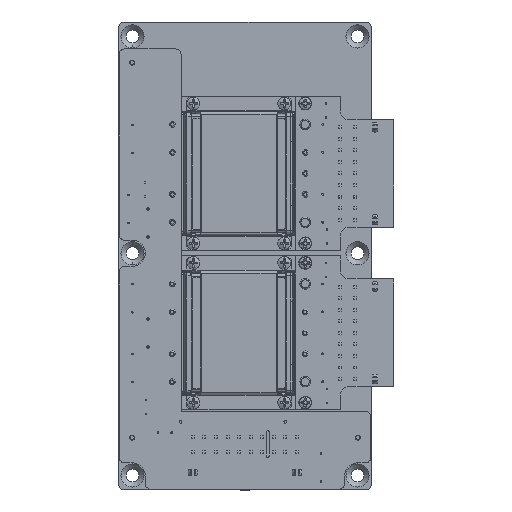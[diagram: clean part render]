
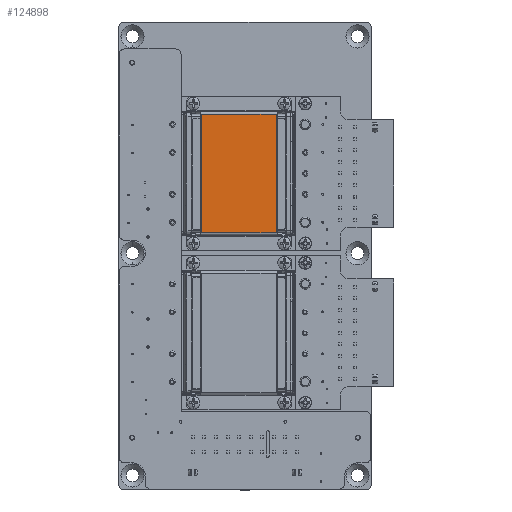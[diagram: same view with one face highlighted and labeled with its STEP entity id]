
A CAD part, top view. The second image highlights one B-rep face of the part: STEP entity #124898.
In plain terms, the highlighted planar face has unit normal (0, 0, 1).
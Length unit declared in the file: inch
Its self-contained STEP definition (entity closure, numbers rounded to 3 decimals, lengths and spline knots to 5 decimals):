
#4781 = LINE ( 'NONE', #176346, #103528 ) ;
#4787 = LINE ( 'NONE', #176350, #103531 ) ;
#4798 = LINE ( 'NONE', #176358, #103543 ) ;
#4803 = LINE ( 'NONE', #176362, #103548 ) ;
#5882 = PLANE ( 'NONE',  #29451 ) ;
#5887 = CARTESIAN_POINT ( 'NONE',  ( -2.40424, 0.40185, 0.71841 ) ) ;
#5892 = DIRECTION ( 'NONE',  ( 0., 0., 1. ) ) ;
#5897 = DIRECTION ( 'NONE',  ( 1., 0., 0. ) ) ;
#9255 = CARTESIAN_POINT ( 'NONE',  ( -1.36371, 0.33089, 0.71841 ) ) ;
#18364 = EDGE_LOOP ( 'NONE', ( #100319, #100316, #100317, #100315 ) ) ;
#29451 = AXIS2_PLACEMENT_3D ( 'NONE', #5887, #5892, #5897 ) ;
#84407 = FACE_OUTER_BOUND ( 'NONE', #18364, .T. ) ;
#100315 = ORIENTED_EDGE ( 'NONE', *, *, #126141, .F. ) ;
#100316 = ORIENTED_EDGE ( 'NONE', *, *, #126154, .F. ) ;
#100317 = ORIENTED_EDGE ( 'NONE', *, *, #126145, .F. ) ;
#100319 = ORIENTED_EDGE ( 'NONE', *, *, #126152, .F. ) ;
#103528 = VECTOR ( 'NONE', #176347, 39.37008 ) ;
#103531 = VECTOR ( 'NONE', #176351, 39.37008 ) ;
#103543 = VECTOR ( 'NONE', #176360, 39.37008 ) ;
#103548 = VECTOR ( 'NONE', #176364, 39.37008 ) ;
#115281 = CARTESIAN_POINT ( 'NONE',  ( -2.43692, 0.33089, 0.71841 ) ) ;
#115362 = CARTESIAN_POINT ( 'NONE',  ( -1.36371, 2.03599, 0.71841 ) ) ;
#115374 = CARTESIAN_POINT ( 'NONE',  ( -2.43692, 2.03599, 0.71841 ) ) ;
#124898 = ADVANCED_FACE ( 'NONE', ( #84407 ), #5882, .T. ) ;
#126141 = EDGE_CURVE ( 'NONE', #182002, #182093, #4781, .T. ) ;
#126145 = EDGE_CURVE ( 'NONE', #182093, #182080, #4787, .T. ) ;
#126152 = EDGE_CURVE ( 'NONE', #181809, #182002, #4798, .T. ) ;
#126154 = EDGE_CURVE ( 'NONE', #182080, #181809, #4803, .T. ) ;
#176346 = CARTESIAN_POINT ( 'NONE',  ( -2.43692, 2.03475, 0.71841 ) ) ;
#176347 = DIRECTION ( 'NONE',  ( 0., 1., 0. ) ) ;
#176350 = CARTESIAN_POINT ( 'NONE',  ( -1.34867, 2.03599, 0.71841 ) ) ;
#176351 = DIRECTION ( 'NONE',  ( 1., 0., 0. ) ) ;
#176358 = CARTESIAN_POINT ( 'NONE',  ( -2.45197, 0.33089, 0.71841 ) ) ;
#176360 = DIRECTION ( 'NONE',  ( -1., 0., 0. ) ) ;
#176362 = CARTESIAN_POINT ( 'NONE',  ( -1.36371, 0.33213, 0.71841 ) ) ;
#176364 = DIRECTION ( 'NONE',  ( 0., -1., 0. ) ) ;
#181809 = VERTEX_POINT ( 'NONE', #9255 ) ;
#182002 = VERTEX_POINT ( 'NONE', #115281 ) ;
#182080 = VERTEX_POINT ( 'NONE', #115362 ) ;
#182093 = VERTEX_POINT ( 'NONE', #115374 ) ;
